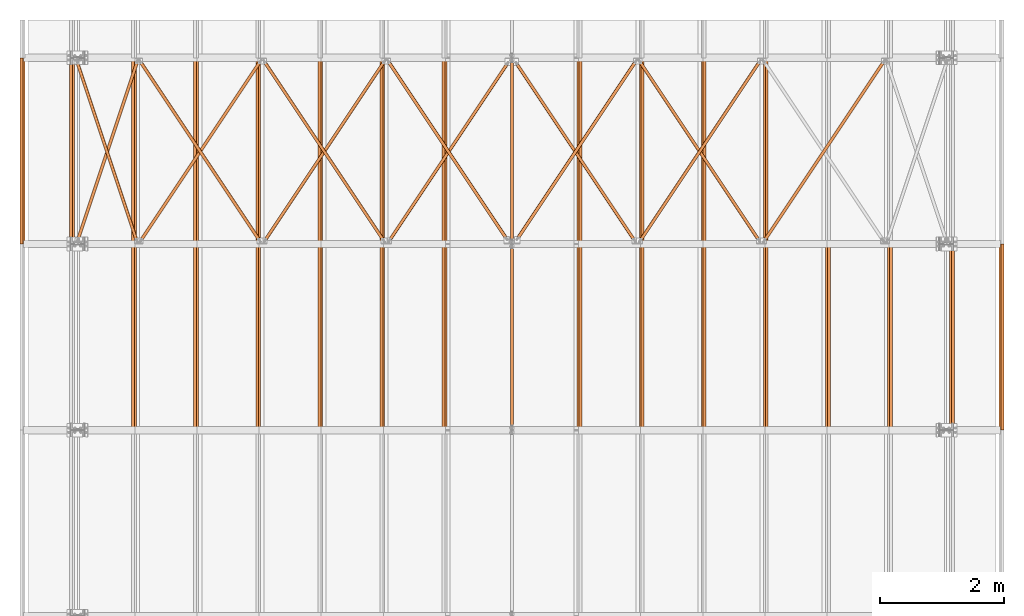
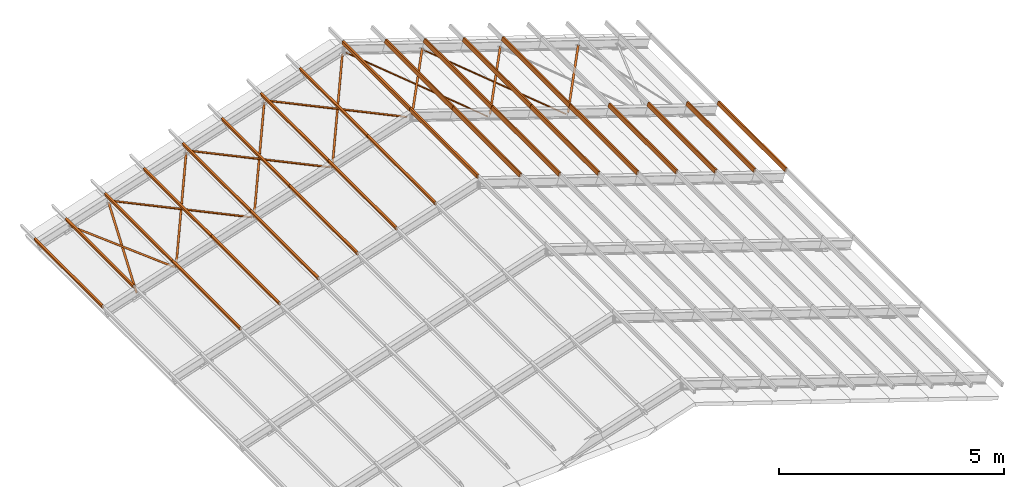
# One storey, part 52 of 53: 41 proxies.
"""IFC4 building model written with IfcOpenShell, lengths in metres."""

from ifc_helpers import new_model, si_unit, frame, frame_2d, origin_with_axes, origin_2d_with_axis, place, context, project, spatial, rectangle, hollow_rectangle, l_section, extrude, clip, halfspace, material, material_profile, profile_set, profile_usage, type_object, element, save


model = new_model("IFC4")

# Units and contexts
model_context = context("Model", 3, precision=1e-05, world=origin_with_axes())
ifc_project = project(units=[si_unit("LENGTHUNIT", "METRE"), si_unit("AREAUNIT", "SQUARE_METRE"), si_unit("VOLUMEUNIT", "CUBIC_METRE"), si_unit("MASSUNIT", "GRAM", prefix="KILO"), si_unit("TIMEUNIT", "SECOND"), si_unit("PLANEANGLEUNIT", "RADIAN"), si_unit("SOLIDANGLEUNIT", "STERADIAN"), si_unit("THERMODYNAMICTEMPERATUREUNIT", "DEGREE_CELSIUS")], contexts=[model_context])

# Site, building, storey
placement_1 = place(None, origin_with_axes())
site = spatial("IfcSite", under=ifc_project, at=placement_1, Name="Italia", CompositionType="ELEMENT")
building = spatial("IfcBuilding", under=site, at=placement_1, Name="Capannone", CompositionType="ELEMENT")
storey_placement = place(None, frame((0.0, 0.0, 5.550000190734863), z_axis=(0.0, 0.0, 1.0), x_axis=(1.0, 0.0, 0.0)))
storey = spatial("IfcBuildingStorey", under=building, at=storey_placement, Name="Storey 1", CompositionType="ELEMENT", Elevation=5.550000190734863)

# Proxies
ifc_material = material(Name="Acciaio", Category="Acciaio")
ifc_material_profile = material_profile(ifc_material, l_section(Depth=0.045, Width=0.045, Thickness=0.004, FilletRadius=0.0, EdgeRadius=0.0, at=origin_2d_with_axis()), Name="2 L45x4")
ifc_profile_set = profile_set([ifc_material_profile])
ifc_profile_usage_1 = profile_usage(ifc_profile_set, cardinal=5)
member_type_1 = type_object("IfcMemberType", Name="1 Piatto 50x5", PredefinedType="MEMBER", material=ifc_profile_usage_1)
placement_2 = place(placement_1, origin_with_axes())
proxy_1_placement = place(placement_2, frame((5.968785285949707, 10.5, 7.616432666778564), z_axis=(0.0, 0.0, 1.0), x_axis=(1.0, 0.0, 0.0)))
element("IfcBuildingElementProxy", 1, at=proxy_1_placement, inside=storey, type_object=member_type_1, Name="139", context=model_context, shape_type="Clipping", body=[
    clip(clip(extrude(rectangle(XDim=0.005, YDim=0.05, at=frame_2d((0.0, 0.0), x_axis=(-0.259726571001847, -0.965682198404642))), frame((0.0, 0.0, 0.0), z_axis=(-0.545710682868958, 0.818565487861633, -0.179305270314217), x_axis=(-0.832050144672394, -0.554700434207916, 0.0)), (0.0, 0.0, 1.0), 7.32989), halfspace(frame((-1.01655, 1.52483, -0.334011), z_axis=(0.545624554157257, -0.818567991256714, 0.179555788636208), x_axis=(0.832091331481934, 0.554638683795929, 0.0)), False)), halfspace(frame((-2.98345, 4.47517, -0.980278), z_axis=(0.545683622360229, -0.81856644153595, 0.179383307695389), x_axis=(0.832063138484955, 0.554680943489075, 0.0)), True)),
])
ifc_profile_usage_2 = profile_usage(ifc_profile_set, cardinal=5)
member_type_2 = type_object("IfcMemberType", Name="1 Piatto 50x5", PredefinedType="MEMBER", material=ifc_profile_usage_2)
proxy_2_placement = place(placement_2, frame((1.46878457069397, 10.5, 6.137860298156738), z_axis=(0.0, 0.0, 1.0), x_axis=(1.0, 0.0, 0.0)))
element("IfcBuildingElementProxy", 2, at=proxy_2_placement, inside=storey, type_object=member_type_2, Name="135", context=model_context, shape_type="Clipping", body=[
    clip(clip(extrude(rectangle(XDim=0.005, YDim=0.05, at=frame_2d((0.0, 0.0), x_axis=(-0.296134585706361, -0.955146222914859))), frame((0.0, 0.0, 0.0), z_axis=(-0.314534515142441, 0.943603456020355, -0.103346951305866), x_axis=(-0.948683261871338, -0.316227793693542, 0.0)), (0.0, 0.0, 1.0), 6.3586), halfspace(frame((-0.506309, 1.51892, -0.166358), z_axis=(0.314477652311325, -0.943603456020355, 0.103519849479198), x_axis=(0.948700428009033, 0.316176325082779, 0.0)), False)), halfspace(frame((-1.49356, 4.48067, -0.49074), z_axis=(0.314540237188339, -0.943602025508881, 0.103342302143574), x_axis=(0.94868141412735, 0.316233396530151, 0.0)), True)),
])
ifc_profile_usage_3 = profile_usage(ifc_profile_set, cardinal=5)
member_type_3 = type_object("IfcMemberType", Name="1 Piatto 50x5", PredefinedType="MEMBER", material=ifc_profile_usage_3)
proxy_3_placement = place(placement_2, frame((-0.518729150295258, 10.5, 5.4427170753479), z_axis=(0.0, 0.0, 1.0), x_axis=(1.0, 0.0, 0.0)))
element("IfcBuildingElementProxy", 3, at=proxy_3_placement, inside=storey, type_object=member_type_3, Name="132", context=model_context, shape_type="Clipping", body=[
    clip(clip(extrude(rectangle(XDim=0.005, YDim=0.05, at=frame_2d((0.0, 0.0), x_axis=(-0.296134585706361, -0.955146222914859))), frame((0.0, 0.0, 0.0), z_axis=(0.314534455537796, 0.943603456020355, 0.103346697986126), x_axis=(-0.948683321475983, 0.316227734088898, 0.0)), (0.0, 0.0, 1.0), 6.3586), halfspace(frame((0.506442, 1.51933, 0.166401), z_axis=(-0.314474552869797, -0.94359678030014, -0.103590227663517), x_axis=(0.948700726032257, -0.316175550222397, 0.0)), False)), halfspace(frame((1.49369, 4.48107, 0.490782), z_axis=(-0.3145532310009, -0.943597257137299, -0.103346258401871), x_axis=(0.948677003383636, -0.316246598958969, 0.0)), True)),
])
ifc_profile_usage_4 = profile_usage(ifc_profile_set, cardinal=8)
member_type_4 = type_object("IfcMemberType", Name="4 RHS100x50x3.2", PredefinedType="MEMBER", material=ifc_profile_usage_4)
proxy_4_placement = place(placement_2, origin_with_axes())
element("IfcBuildingElementProxy", 4, at=proxy_4_placement, inside=storey, type_object=member_type_4, Name="110", context=model_context, shape_type="SweptSolid", body=[
    extrude(hollow_rectangle(XDim=0.05, YDim=0.1, WallThickness=0.0032, at=frame_2d((0.0, 0.0), x_axis=(0.950032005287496, -0.312152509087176))), frame((1.90948, 12.0, 6.48265), z_axis=(0.0, 1.0, 0.0), x_axis=(-1.0, 0.0, 0.0)), (0.0, 0.0, 1.0), 3.0),
])
ifc_profile_usage_5 = profile_usage(ifc_profile_set, cardinal=8)
member_type_5 = type_object("IfcMemberType", Name="4 RHS100x50x3.2", PredefinedType="MEMBER", material=ifc_profile_usage_5)
proxy_5_placement = place(placement_2, origin_with_axes())
element("IfcBuildingElementProxy", 5, at=proxy_5_placement, inside=storey, type_object=member_type_5, Name="112", context=model_context, shape_type="SweptSolid", body=[
    extrude(hollow_rectangle(XDim=0.05, YDim=0.1, WallThickness=0.0032, at=frame_2d((0.0, 0.0), x_axis=(0.950032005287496, -0.312152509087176))), frame((3.90948, 12.0, 7.13979), z_axis=(0.0, 1.0, 0.0), x_axis=(-1.0, 0.0, 0.0)), (0.0, 0.0, 1.0), 3.0),
])
ifc_profile_usage_6 = profile_usage(ifc_profile_set, cardinal=8)
member_type_6 = type_object("IfcMemberType", Name="4 RHS100x50x3.2", PredefinedType="MEMBER", material=ifc_profile_usage_6)
proxy_6_placement = place(placement_2, origin_with_axes())
element("IfcBuildingElementProxy", 6, at=proxy_6_placement, inside=storey, type_object=member_type_6, Name="114", context=model_context, shape_type="SweptSolid", body=[
    extrude(hollow_rectangle(XDim=0.05, YDim=0.1, WallThickness=0.0032, at=frame_2d((0.0, 0.0), x_axis=(0.950032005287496, -0.312152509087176))), frame((5.90948, 12.0, 7.79694), z_axis=(0.0, 1.0, 0.0), x_axis=(-1.0, 0.0, 0.0)), (0.0, 0.0, 1.0), 3.0),
])
ifc_profile_usage_7 = profile_usage(ifc_profile_set, cardinal=5)
member_type_7 = type_object("IfcMemberType", Name="1 Piatto 50x5", PredefinedType="MEMBER", material=ifc_profile_usage_7)
proxy_7_placement = place(placement_2, frame((-0.018729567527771, 10.5, 5.607002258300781), z_axis=(0.0, 0.0, 1.0), x_axis=(1.0, 0.0, 0.0)))
element("IfcBuildingElementProxy", 7, at=proxy_7_placement, inside=storey, type_object=member_type_7, Name="137", context=model_context, shape_type="Clipping", body=[
    clip(clip(extrude(rectangle(XDim=0.005, YDim=0.05, at=frame_2d((0.0, 0.0), x_axis=(-0.259727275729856, -0.965682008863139))), frame((0.0, 0.0, 0.0), z_axis=(0.545710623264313, 0.818565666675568, 0.179304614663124), x_axis=(-0.832050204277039, 0.554700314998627, 0.0)), (0.0, 0.0, 1.0), 7.32989), halfspace(frame((1.01655, 1.52483, 0.33401), z_axis=(-0.545713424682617, -0.818564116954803, -0.179303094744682), x_axis=(0.832048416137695, -0.554703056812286, 0.0)), False)), halfspace(frame((2.98345, 4.47517, 0.980274), z_axis=(-0.545700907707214, -0.818565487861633, -0.17933514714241), x_axis=(0.832054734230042, -0.554693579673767, 0.0)), True)),
])
ifc_profile_usage_8 = profile_usage(ifc_profile_set, cardinal=5)
member_type_8 = type_object("IfcMemberType", Name="1 Piatto 50x5", PredefinedType="MEMBER", material=ifc_profile_usage_8)
proxy_8_placement = place(placement_2, frame((3.968784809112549, 10.5, 6.95928955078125), z_axis=(0.0, 0.0, 1.0), x_axis=(1.0, 0.0, 0.0)))
element("IfcBuildingElementProxy", 8, at=proxy_8_placement, inside=storey, type_object=member_type_8, Name="126", context=model_context, shape_type="Clipping", body=[
    clip(clip(extrude(rectangle(XDim=0.005, YDim=0.05, at=frame_2d((0.0, 0.0), x_axis=(-0.259727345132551, -0.965681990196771))), frame((0.0, 0.0, 0.0), z_axis=(-0.545710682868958, 0.818565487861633, -0.179305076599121), x_axis=(-0.832050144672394, -0.554700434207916, 0.0)), (0.0, 0.0, 1.0), 7.32989), halfspace(frame((-1.01655, 1.52483, -0.33401), z_axis=(0.545691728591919, -0.818568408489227, 0.179349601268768), x_axis=(0.832059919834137, 0.554685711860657, 0.0)), False)), halfspace(frame((-2.98345, 4.47517, -0.980278), z_axis=(0.545613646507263, -0.818566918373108, 0.179593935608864), x_axis=(0.832096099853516, 0.554631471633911, 0.0)), True)),
])
ifc_profile_usage_9 = profile_usage(ifc_profile_set, cardinal=5)
member_type_9 = type_object("IfcMemberType", Name="1 Piatto 50x5", PredefinedType="MEMBER", material=ifc_profile_usage_9)
proxy_9_placement = place(placement_2, frame((6.031215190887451, 10.5, 8.273573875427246), z_axis=(0.0, 0.0, 1.0), x_axis=(1.0, 0.0, 0.0)))
element("IfcBuildingElementProxy", 9, at=proxy_9_placement, inside=storey, type_object=member_type_9, Name="129", context=model_context, shape_type="Clipping", body=[
    clip(clip(extrude(rectangle(XDim=0.005, YDim=0.05, at=frame_2d((0.0, 0.0), x_axis=(-0.259727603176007, 0.96568192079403))), frame((0.0, 0.0, 0.0), z_axis=(0.545710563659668, 0.818565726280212, -0.179304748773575), x_axis=(-0.832050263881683, 0.554700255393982, 0.0)), (0.0, 0.0, 1.0), 7.32989), halfspace(frame((1.03347, 1.5502, -0.339568), z_axis=(-0.54570996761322, -0.81856095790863, 0.179328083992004), x_axis=(0.832049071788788, -0.55470210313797, 0.0)), False)), halfspace(frame((2.98345, 4.47517, -0.980275), z_axis=(-0.545789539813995, -0.818569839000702, 0.179045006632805), x_axis=(0.832014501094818, -0.55475389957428, 0.0)), True)),
])
ifc_profile_usage_10 = profile_usage(ifc_profile_set, cardinal=5)
member_type_10 = type_object("IfcMemberType", Name="1 Piatto 50x5", PredefinedType="MEMBER", material=ifc_profile_usage_10)
proxy_10_placement = place(placement_2, frame((10.01248550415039, 10.5, 6.902287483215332), z_axis=(0.0, 0.0, 1.0), x_axis=(1.0, 0.0, 0.0)))
element("IfcBuildingElementProxy", 10, at=proxy_10_placement, inside=storey, type_object=member_type_10, Name="131", context=model_context, shape_type="Clipping", body=[
    clip(clip(extrude(rectangle(XDim=0.005, YDim=0.05, at=frame_2d((0.0, 0.0), x_axis=(-0.259727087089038, 0.965682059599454))), frame((0.0, 0.0, 0.0), z_axis=(-0.545710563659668, 0.818565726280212, 0.179304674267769), x_axis=(-0.832050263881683, -0.554700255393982, 0.0)), (0.0, 0.0, 1.0), 7.32989), halfspace(frame((-1.01655, 1.52483, 0.334009), z_axis=(0.545754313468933, -0.818560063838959, -0.179197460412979), x_axis=(0.832027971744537, 0.554733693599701, 0.0)), False)), halfspace(frame((-2.96653, 4.4498, 0.974717), z_axis=(0.545635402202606, -0.818559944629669, -0.179559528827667), x_axis=(0.832083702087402, 0.554650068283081, 0.0)), True)),
])
ifc_profile_usage_11 = profile_usage(ifc_profile_set, cardinal=5)
member_type_11 = type_object("IfcMemberType", Name="1 Piatto 50x5", PredefinedType="MEMBER", material=ifc_profile_usage_11)
proxy_11_placement = place(placement_2, frame((8.03121566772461, 10.5, 7.61643123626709), z_axis=(0.0, 0.0, 1.0), x_axis=(1.0, 0.0, 0.0)))
element("IfcBuildingElementProxy", 11, at=proxy_11_placement, inside=storey, type_object=member_type_11, Name="127", context=model_context, shape_type="Clipping", body=[
    clip(clip(extrude(rectangle(XDim=0.005, YDim=0.05, at=frame_2d((0.0, 0.0), x_axis=(-0.259727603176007, 0.96568192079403))), frame((0.0, 0.0, 0.0), z_axis=(0.545710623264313, 0.818565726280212, -0.179304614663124), x_axis=(-0.832050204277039, 0.554700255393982, 0.0)), (0.0, 0.0, 1.0), 7.32989), halfspace(frame((1.01655, 1.52483, -0.334009), z_axis=(-0.545621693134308, -0.818545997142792, 0.179664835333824), x_axis=(0.832085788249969, -0.554646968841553, 0.0)), False)), halfspace(frame((2.98345, 4.47517, -0.980275), z_axis=(-0.545684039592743, -0.818583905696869, 0.179302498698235), x_axis=(0.832068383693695, -0.554673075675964, 0.0)), True)),
])
ifc_profile_usage_12 = profile_usage(ifc_profile_set, cardinal=5)
member_type_12 = type_object("IfcMemberType", Name="1 Piatto 50x5", PredefinedType="MEMBER", material=ifc_profile_usage_12)
proxy_12_placement = place(placement_2, frame((12.018729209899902, 10.5, 6.264145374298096), z_axis=(0.0, 0.0, 1.0), x_axis=(1.0, 0.0, 0.0)))
element("IfcBuildingElementProxy", 12, at=proxy_12_placement, inside=storey, type_object=member_type_12, Name="124", context=model_context, shape_type="Clipping", body=[
    clip(clip(extrude(rectangle(XDim=0.005, YDim=0.05, at=frame_2d((0.0, 0.0), x_axis=(-0.259726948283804, 0.965682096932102))), frame((0.0, 0.0, 0.0), z_axis=(-0.545710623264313, 0.818565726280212, 0.179304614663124), x_axis=(-0.832050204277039, -0.554700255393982, 0.0)), (0.0, 0.0, 1.0), 7.32989), halfspace(frame((-1.01655, 1.52483, 0.334009), z_axis=(0.545703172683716, -0.818569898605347, -0.179307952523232), x_axis=(0.832055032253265, 0.554693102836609, 0.0)), False)), halfspace(frame((-2.98345, 4.47517, 0.980275), z_axis=(0.545735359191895, -0.818553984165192, -0.179282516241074), x_axis=(0.832034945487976, 0.55472320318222, 0.0)), True)),
])
ifc_profile_usage_13 = profile_usage(ifc_profile_set, cardinal=5)
member_type_13 = type_object("IfcMemberType", Name="1 Piatto 50x5", PredefinedType="MEMBER", material=ifc_profile_usage_13)
proxy_13_placement = place(placement_2, frame((10.031214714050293, 10.5, 6.95928955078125), z_axis=(0.0, 0.0, 1.0), x_axis=(1.0, 0.0, 0.0)))
element("IfcBuildingElementProxy", 13, at=proxy_13_placement, inside=storey, type_object=member_type_13, Name="130", context=model_context, shape_type="Clipping", body=[
    clip(clip(extrude(rectangle(XDim=0.005, YDim=0.05, at=frame_2d((0.0, 0.0), x_axis=(-0.259727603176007, 0.96568192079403))), frame((0.0, 0.0, 0.0), z_axis=(0.545710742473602, 0.818565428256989, -0.179305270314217), x_axis=(-0.832050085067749, 0.554700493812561, 0.0)), (0.0, 0.0, 1.0), 7.32989), halfspace(frame((1.01655, 1.52483, -0.33401), z_axis=(-0.545715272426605, -0.818576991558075, 0.17923891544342), x_axis=(0.832051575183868, -0.554698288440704, 0.0)), False)), halfspace(frame((2.98345, 4.47517, -0.980276), z_axis=(-0.545605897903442, -0.818565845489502, 0.179622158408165), x_axis=(0.832099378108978, -0.554626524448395, 0.0)), True)),
])
ifc_profile_usage_14 = profile_usage(ifc_profile_set, cardinal=8)
member_type_14 = type_object("IfcMemberType", Name="4 RHS100x50x3.2", PredefinedType="MEMBER", material=ifc_profile_usage_14)
proxy_14_placement = place(placement_2, origin_with_axes())
element("IfcBuildingElementProxy", 14, at=proxy_14_placement, inside=storey, type_object=member_type_14, Name="107", context=model_context, shape_type="SweptSolid", body=[
    extrude(hollow_rectangle(XDim=0.05, YDim=0.1, WallThickness=0.0032, at=frame_2d((0.0, 0.0), x_axis=(0.950032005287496, -0.312152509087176))), frame((-0.890524, 12.0, 5.56265), z_axis=(0.0, 1.0, 0.0), x_axis=(-1.0, 0.0, 0.0)), (0.0, 0.0, 1.0), 3.0),
])
ifc_profile_usage_15 = profile_usage(ifc_profile_set, cardinal=8)
member_type_15 = type_object("IfcMemberType", Name="4 RHS100x50x3.2", PredefinedType="MEMBER", material=ifc_profile_usage_15)
proxy_15_placement = place(placement_2, origin_with_axes())
element("IfcBuildingElementProxy", 15, at=proxy_15_placement, inside=storey, type_object=member_type_15, Name="123", context=model_context, shape_type="SweptSolid", body=[
    extrude(hollow_rectangle(XDim=0.05, YDim=0.1, WallThickness=0.0032, at=frame_2d((0.0, 0.0), x_axis=(0.950032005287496, 0.312152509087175))), frame((14.8905, 9.0, 5.56265), z_axis=(0.0, 1.0, 0.0), x_axis=(-1.0, 0.0, 0.0)), (0.0, 0.0, 1.0), 3.0),
])
ifc_profile_usage_16 = profile_usage(ifc_profile_set, cardinal=8)
member_type_16 = type_object("IfcMemberType", Name="4 RHS100x50x3.2", PredefinedType="MEMBER", material=ifc_profile_usage_16)
proxy_16_placement = place(placement_2, origin_with_axes())
element("IfcBuildingElementProxy", 16, at=proxy_16_placement, inside=storey, type_object=member_type_16, Name="122", context=model_context, shape_type="SweptSolid", body=[
    extrude(hollow_rectangle(XDim=0.05, YDim=0.1, WallThickness=0.0032, at=frame_2d((0.0, 0.0), x_axis=(0.950032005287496, 0.312152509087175))), frame((14.0905, 9.0, 5.82551), z_axis=(0.0, 1.0, 0.0), x_axis=(-1.0, 0.0, 0.0)), (0.0, 0.0, 1.0), 3.0),
])
ifc_profile_usage_17 = profile_usage(ifc_profile_set, cardinal=8)
member_type_17 = type_object("IfcMemberType", Name="4 RHS100x50x3.2", PredefinedType="MEMBER", material=ifc_profile_usage_17)
proxy_17_placement = place(placement_2, origin_with_axes())
element("IfcBuildingElementProxy", 17, at=proxy_17_placement, inside=storey, type_object=member_type_17, Name="115", context=model_context, shape_type="SweptSolid", body=[
    extrude(hollow_rectangle(XDim=0.05, YDim=0.1, WallThickness=0.0032, at=origin_2d_with_axis()), frame((7.0, 12.0, 8.14), z_axis=(0.0, -1.0, 0.0), x_axis=(1.0, 0.0, 0.0)), (0.0, 0.0, 1.0), 3.0),
])
ifc_profile_usage_18 = profile_usage(ifc_profile_set, cardinal=8)
member_type_18 = type_object("IfcMemberType", Name="4 RHS100x50x3.2", PredefinedType="MEMBER", material=ifc_profile_usage_18)
proxy_18_placement = place(placement_2, origin_with_axes())
element("IfcBuildingElementProxy", 18, at=proxy_18_placement, inside=storey, type_object=member_type_18, Name="108", context=model_context, shape_type="SweptSolid", body=[
    extrude(hollow_rectangle(XDim=0.05, YDim=0.1, WallThickness=0.0032, at=frame_2d((0.0, 0.0), x_axis=(0.950031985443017, -0.312152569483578))), frame((-0.0905242, 12.0, 5.82551), z_axis=(0.0, 1.0, 0.0), x_axis=(-1.0, 0.0, 0.0)), (0.0, 0.0, 1.0), 3.0),
])
ifc_profile_usage_19 = profile_usage(ifc_profile_set, cardinal=8)
member_type_19 = type_object("IfcMemberType", Name="4 RHS100x50x3.2", PredefinedType="MEMBER", material=ifc_profile_usage_19)
proxy_19_placement = place(placement_2, origin_with_axes())
element("IfcBuildingElementProxy", 19, at=proxy_19_placement, inside=storey, type_object=member_type_19, Name="109", context=model_context, shape_type="SweptSolid", body=[
    extrude(hollow_rectangle(XDim=0.05, YDim=0.1, WallThickness=0.0032, at=frame_2d((0.0, 0.0), x_axis=(0.950031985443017, -0.312152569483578))), frame((0.909476, 9.0, 6.15408), z_axis=(0.0, 1.0, 0.0), x_axis=(-1.0, 0.0, 0.0)), (0.0, 0.0, 1.0), 3.0),
])
ifc_profile_usage_20 = profile_usage(ifc_profile_set, cardinal=8)
member_type_20 = type_object("IfcMemberType", Name="4 RHS100x50x3.2", PredefinedType="MEMBER", material=ifc_profile_usage_20)
proxy_20_placement = place(placement_2, origin_with_axes())
element("IfcBuildingElementProxy", 20, at=proxy_20_placement, inside=storey, type_object=member_type_20, Name="110", context=model_context, shape_type="SweptSolid", body=[
    extrude(hollow_rectangle(XDim=0.05, YDim=0.1, WallThickness=0.0032, at=frame_2d((0.0, 0.0), x_axis=(0.950031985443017, -0.312152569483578))), frame((1.90948, 9.0, 6.48265), z_axis=(0.0, 1.0, 0.0), x_axis=(-1.0, 0.0, 0.0)), (0.0, 0.0, 1.0), 3.0),
])
ifc_profile_usage_21 = profile_usage(ifc_profile_set, cardinal=8)
member_type_21 = type_object("IfcMemberType", Name="4 RHS100x50x3.2", PredefinedType="MEMBER", material=ifc_profile_usage_21)
proxy_21_placement = place(placement_2, origin_with_axes())
element("IfcBuildingElementProxy", 21, at=proxy_21_placement, inside=storey, type_object=member_type_21, Name="111", context=model_context, shape_type="SweptSolid", body=[
    extrude(hollow_rectangle(XDim=0.05, YDim=0.1, WallThickness=0.0032, at=frame_2d((0.0, 0.0), x_axis=(0.950031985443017, -0.312152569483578))), frame((2.90948, 9.0, 6.81122), z_axis=(0.0, 1.0, 0.0), x_axis=(-1.0, 0.0, 0.0)), (0.0, 0.0, 1.0), 3.0),
])
ifc_profile_usage_22 = profile_usage(ifc_profile_set, cardinal=8)
member_type_22 = type_object("IfcMemberType", Name="4 RHS100x50x3.2", PredefinedType="MEMBER", material=ifc_profile_usage_22)
proxy_22_placement = place(placement_2, origin_with_axes())
element("IfcBuildingElementProxy", 22, at=proxy_22_placement, inside=storey, type_object=member_type_22, Name="112", context=model_context, shape_type="SweptSolid", body=[
    extrude(hollow_rectangle(XDim=0.05, YDim=0.1, WallThickness=0.0032, at=frame_2d((0.0, 0.0), x_axis=(0.950031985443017, -0.312152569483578))), frame((3.90948, 9.0, 7.13979), z_axis=(0.0, 1.0, 0.0), x_axis=(-1.0, 0.0, 0.0)), (0.0, 0.0, 1.0), 3.0),
])
ifc_profile_usage_23 = profile_usage(ifc_profile_set, cardinal=8)
member_type_23 = type_object("IfcMemberType", Name="4 RHS100x50x3.2", PredefinedType="MEMBER", material=ifc_profile_usage_23)
proxy_23_placement = place(placement_2, origin_with_axes())
element("IfcBuildingElementProxy", 23, at=proxy_23_placement, inside=storey, type_object=member_type_23, Name="113", context=model_context, shape_type="SweptSolid", body=[
    extrude(hollow_rectangle(XDim=0.05, YDim=0.1, WallThickness=0.0032, at=frame_2d((0.0, 0.0), x_axis=(0.950031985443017, -0.312152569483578))), frame((4.90948, 9.0, 7.46837), z_axis=(0.0, 1.0, 0.0), x_axis=(-1.0, 0.0, 0.0)), (0.0, 0.0, 1.0), 3.0),
])
ifc_profile_usage_24 = profile_usage(ifc_profile_set, cardinal=8)
member_type_24 = type_object("IfcMemberType", Name="4 RHS100x50x3.2", PredefinedType="MEMBER", material=ifc_profile_usage_24)
proxy_24_placement = place(placement_2, origin_with_axes())
element("IfcBuildingElementProxy", 24, at=proxy_24_placement, inside=storey, type_object=member_type_24, Name="114", context=model_context, shape_type="SweptSolid", body=[
    extrude(hollow_rectangle(XDim=0.05, YDim=0.1, WallThickness=0.0032, at=frame_2d((0.0, 0.0), x_axis=(0.950031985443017, -0.312152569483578))), frame((5.90948, 9.0, 7.79694), z_axis=(0.0, 1.0, 0.0), x_axis=(-1.0, 0.0, 0.0)), (0.0, 0.0, 1.0), 3.0),
])
ifc_profile_usage_25 = profile_usage(ifc_profile_set, cardinal=8)
member_type_25 = type_object("IfcMemberType", Name="4 RHS100x50x3.2", PredefinedType="MEMBER", material=ifc_profile_usage_25)
proxy_25_placement = place(placement_2, origin_with_axes())
element("IfcBuildingElementProxy", 25, at=proxy_25_placement, inside=storey, type_object=member_type_25, Name="109", context=model_context, shape_type="SweptSolid", body=[
    extrude(hollow_rectangle(XDim=0.05, YDim=0.1, WallThickness=0.0032, at=frame_2d((0.0, 0.0), x_axis=(0.950031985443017, -0.312152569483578))), frame((0.909476, 12.0, 6.15408), z_axis=(0.0, 1.0, 0.0), x_axis=(-1.0, 0.0, 0.0)), (0.0, 0.0, 1.0), 3.0),
])
ifc_profile_usage_26 = profile_usage(ifc_profile_set, cardinal=5)
member_type_26 = type_object("IfcMemberType", Name="1 Piatto 50x5", PredefinedType="MEMBER", material=ifc_profile_usage_26)
proxy_26_placement = place(placement_2, frame((3.987513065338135, 10.5, 6.90228796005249), z_axis=(0.0, 0.0, 1.0), x_axis=(1.0, 0.0, 0.0)))
element("IfcBuildingElementProxy", 26, at=proxy_26_placement, inside=storey, type_object=member_type_26, Name="136", context=model_context, shape_type="Clipping", body=[
    clip(clip(extrude(rectangle(XDim=0.005, YDim=0.05, at=frame_2d((0.0, 0.0), x_axis=(-0.259727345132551, -0.965681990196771))), frame((0.0, 0.0, 0.0), z_axis=(0.545710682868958, 0.818565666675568, 0.179304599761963), x_axis=(-0.832050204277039, 0.554700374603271, 0.0)), (0.0, 0.0, 1.0), 7.32989), halfspace(frame((1.01655, 1.52483, 0.334009), z_axis=(-0.545708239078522, -0.818558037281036, -0.179346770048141), x_axis=(0.832048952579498, -0.55470222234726, 0.0)), False)), halfspace(frame((2.96653, 4.4498, 0.974715), z_axis=(-0.545581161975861, -0.818583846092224, -0.179615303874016), x_axis=(0.832116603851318, -0.554600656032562, 0.0)), True)),
])
ifc_profile_usage_27 = profile_usage(ifc_profile_set, cardinal=8)
member_type_27 = type_object("IfcMemberType", Name="4 RHS100x50x3.2", PredefinedType="MEMBER", material=ifc_profile_usage_27)
proxy_27_placement = place(placement_2, origin_with_axes())
element("IfcBuildingElementProxy", 27, at=proxy_27_placement, inside=storey, type_object=member_type_27, Name="111", context=model_context, shape_type="SweptSolid", body=[
    extrude(hollow_rectangle(XDim=0.05, YDim=0.1, WallThickness=0.0032, at=frame_2d((0.0, 0.0), x_axis=(0.950031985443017, -0.312152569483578))), frame((2.90948, 12.0, 6.81122), z_axis=(0.0, 1.0, 0.0), x_axis=(-1.0, 0.0, 0.0)), (0.0, 0.0, 1.0), 3.0),
])
ifc_profile_usage_28 = profile_usage(ifc_profile_set, cardinal=5)
member_type_28 = type_object("IfcMemberType", Name="1 Piatto 50x5", PredefinedType="MEMBER", material=ifc_profile_usage_28)
proxy_28_placement = place(placement_2, frame((7.968784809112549, 10.5, 8.273574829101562), z_axis=(0.0, 0.0, 1.0), x_axis=(1.0, 0.0, 0.0)))
element("IfcBuildingElementProxy", 28, at=proxy_28_placement, inside=storey, type_object=member_type_28, Name="128", context=model_context, shape_type="Clipping", body=[
    clip(clip(extrude(rectangle(XDim=0.005, YDim=0.05, at=frame_2d((0.0, 0.0), x_axis=(-0.259726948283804, -0.965682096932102))), frame((0.0, 0.0, 0.0), z_axis=(-0.545710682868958, 0.818565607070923, -0.179304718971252), x_axis=(-0.832050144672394, -0.554700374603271, 0.0)), (0.0, 0.0, 1.0), 7.3299), halfspace(frame((-1.03347, 1.5502, -0.339569), z_axis=(0.545769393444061, -0.81856095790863, 0.179147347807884), x_axis=(0.832021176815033, 0.554743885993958, 0.0)), False)), halfspace(frame((-2.98345, 4.47517, -0.980277), z_axis=(0.545695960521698, -0.818559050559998, 0.179379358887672), x_axis=(0.832055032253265, 0.554693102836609, 0.0)), True)),
])
ifc_profile_usage_29 = profile_usage(ifc_profile_set, cardinal=8)
member_type_29 = type_object("IfcMemberType", Name="4 RHS100x50x3.2", PredefinedType="MEMBER", material=ifc_profile_usage_29)
proxy_29_placement = place(placement_2, origin_with_axes())
element("IfcBuildingElementProxy", 29, at=proxy_29_placement, inside=storey, type_object=member_type_29, Name="113", context=model_context, shape_type="SweptSolid", body=[
    extrude(hollow_rectangle(XDim=0.05, YDim=0.1, WallThickness=0.0032, at=frame_2d((0.0, 0.0), x_axis=(0.950031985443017, -0.312152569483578))), frame((4.90948, 12.0, 7.46837), z_axis=(0.0, 1.0, 0.0), x_axis=(-1.0, 0.0, 0.0)), (0.0, 0.0, 1.0), 3.0),
])
ifc_profile_usage_30 = profile_usage(ifc_profile_set, cardinal=5)
member_type_30 = type_object("IfcMemberType", Name="1 Piatto 50x5", PredefinedType="MEMBER", material=ifc_profile_usage_30)
proxy_30_placement = place(placement_2, frame((1.981270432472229, 10.5, 6.264143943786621), z_axis=(0.0, 0.0, 1.0), x_axis=(1.0, 0.0, 0.0)))
element("IfcBuildingElementProxy", 30, at=proxy_30_placement, inside=storey, type_object=member_type_30, Name="125", context=model_context, shape_type="Clipping", body=[
    clip(clip(extrude(rectangle(XDim=0.005, YDim=0.05, at=frame_2d((0.0, 0.0), x_axis=(-0.259727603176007, -0.96568192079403))), frame((0.0, 0.0, 0.0), z_axis=(0.545710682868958, 0.818565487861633, 0.179305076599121), x_axis=(-0.832050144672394, 0.554700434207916, 0.0)), (0.0, 0.0, 1.0), 7.32989), halfspace(frame((1.01655, 1.52483, 0.334011), z_axis=(-0.545706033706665, -0.818567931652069, -0.17930856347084), x_axis=(0.832053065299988, -0.554696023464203, 0.0)), False)), halfspace(frame((2.98345, 4.47517, 0.980278), z_axis=(-0.545885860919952, -0.818534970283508, -0.178911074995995), x_axis=(0.831958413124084, -0.554838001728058, 0.0)), True)),
])
ifc_profile_usage_31 = profile_usage(ifc_profile_set, cardinal=8)
member_type_31 = type_object("IfcMemberType", Name="4 RHS100x50x3.2", PredefinedType="MEMBER", material=ifc_profile_usage_31)
proxy_31_placement = place(placement_2, origin_with_axes())
element("IfcBuildingElementProxy", 31, at=proxy_31_placement, inside=storey, type_object=member_type_31, Name="116", context=model_context, shape_type="SweptSolid", body=[
    extrude(hollow_rectangle(XDim=0.05, YDim=0.1, WallThickness=0.0032, at=frame_2d((0.0, 0.0), x_axis=(0.950032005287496, 0.312152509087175))), frame((8.09052, 12.0, 7.79694), z_axis=(0.0, 1.0, 0.0), x_axis=(-1.0, 0.0, 0.0)), (0.0, 0.0, 1.0), 3.0),
])
ifc_profile_usage_32 = profile_usage(ifc_profile_set, cardinal=8)
member_type_32 = type_object("IfcMemberType", Name="4 RHS100x50x3.2", PredefinedType="MEMBER", material=ifc_profile_usage_32)
proxy_32_placement = place(placement_2, origin_with_axes())
element("IfcBuildingElementProxy", 32, at=proxy_32_placement, inside=storey, type_object=member_type_32, Name="117", context=model_context, shape_type="SweptSolid", body=[
    extrude(hollow_rectangle(XDim=0.05, YDim=0.1, WallThickness=0.0032, at=frame_2d((0.0, 0.0), x_axis=(0.950032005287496, 0.312152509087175))), frame((9.09052, 12.0, 7.46837), z_axis=(0.0, 1.0, 0.0), x_axis=(-1.0, 0.0, 0.0)), (0.0, 0.0, 1.0), 3.0),
])
ifc_profile_usage_33 = profile_usage(ifc_profile_set, cardinal=8)
member_type_33 = type_object("IfcMemberType", Name="4 RHS100x50x3.2", PredefinedType="MEMBER", material=ifc_profile_usage_33)
proxy_33_placement = place(placement_2, origin_with_axes())
element("IfcBuildingElementProxy", 33, at=proxy_33_placement, inside=storey, type_object=member_type_33, Name="118", context=model_context, shape_type="SweptSolid", body=[
    extrude(hollow_rectangle(XDim=0.05, YDim=0.1, WallThickness=0.0032, at=frame_2d((0.0, 0.0), x_axis=(0.950032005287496, 0.312152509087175))), frame((10.0905, 12.0, 7.1398), z_axis=(0.0, 1.0, 0.0), x_axis=(-1.0, 0.0, 0.0)), (0.0, 0.0, 1.0), 3.0),
])
ifc_profile_usage_34 = profile_usage(ifc_profile_set, cardinal=8)
member_type_34 = type_object("IfcMemberType", Name="4 RHS100x50x3.2", PredefinedType="MEMBER", material=ifc_profile_usage_34)
proxy_34_placement = place(placement_2, origin_with_axes())
element("IfcBuildingElementProxy", 34, at=proxy_34_placement, inside=storey, type_object=member_type_34, Name="119", context=model_context, shape_type="SweptSolid", body=[
    extrude(hollow_rectangle(XDim=0.05, YDim=0.1, WallThickness=0.0032, at=frame_2d((0.0, 0.0), x_axis=(0.950032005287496, 0.312152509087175))), frame((11.0905, 12.0, 6.81122), z_axis=(0.0, 1.0, 0.0), x_axis=(-1.0, 0.0, 0.0)), (0.0, 0.0, 1.0), 3.0),
])
ifc_profile_usage_35 = profile_usage(ifc_profile_set, cardinal=8)
member_type_35 = type_object("IfcMemberType", Name="4 RHS100x50x3.2", PredefinedType="MEMBER", material=ifc_profile_usage_35)
proxy_35_placement = place(placement_2, origin_with_axes())
element("IfcBuildingElementProxy", 35, at=proxy_35_placement, inside=storey, type_object=member_type_35, Name="116", context=model_context, shape_type="SweptSolid", body=[
    extrude(hollow_rectangle(XDim=0.05, YDim=0.1, WallThickness=0.0032, at=frame_2d((0.0, 0.0), x_axis=(0.950032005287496, 0.312152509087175))), frame((8.09052, 9.0, 7.79694), z_axis=(0.0, 1.0, 0.0), x_axis=(-1.0, 0.0, 0.0)), (0.0, 0.0, 1.0), 3.0),
])
ifc_profile_usage_36 = profile_usage(ifc_profile_set, cardinal=8)
member_type_36 = type_object("IfcMemberType", Name="4 RHS100x50x3.2", PredefinedType="MEMBER", material=ifc_profile_usage_36)
proxy_36_placement = place(placement_2, origin_with_axes())
element("IfcBuildingElementProxy", 36, at=proxy_36_placement, inside=storey, type_object=member_type_36, Name="117", context=model_context, shape_type="SweptSolid", body=[
    extrude(hollow_rectangle(XDim=0.05, YDim=0.1, WallThickness=0.0032, at=frame_2d((0.0, 0.0), x_axis=(0.950032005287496, 0.312152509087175))), frame((9.09052, 9.0, 7.46837), z_axis=(0.0, 1.0, 0.0), x_axis=(-1.0, 0.0, 0.0)), (0.0, 0.0, 1.0), 3.0),
])
ifc_profile_usage_37 = profile_usage(ifc_profile_set, cardinal=8)
member_type_37 = type_object("IfcMemberType", Name="4 RHS100x50x3.2", PredefinedType="MEMBER", material=ifc_profile_usage_37)
proxy_37_placement = place(placement_2, origin_with_axes())
element("IfcBuildingElementProxy", 37, at=proxy_37_placement, inside=storey, type_object=member_type_37, Name="118", context=model_context, shape_type="SweptSolid", body=[
    extrude(hollow_rectangle(XDim=0.05, YDim=0.1, WallThickness=0.0032, at=frame_2d((0.0, 0.0), x_axis=(0.950032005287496, 0.312152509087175))), frame((10.0905, 9.0, 7.1398), z_axis=(0.0, 1.0, 0.0), x_axis=(-1.0, 0.0, 0.0)), (0.0, 0.0, 1.0), 3.0),
])
ifc_profile_usage_38 = profile_usage(ifc_profile_set, cardinal=8)
member_type_38 = type_object("IfcMemberType", Name="4 RHS100x50x3.2", PredefinedType="MEMBER", material=ifc_profile_usage_38)
proxy_38_placement = place(placement_2, origin_with_axes())
element("IfcBuildingElementProxy", 38, at=proxy_38_placement, inside=storey, type_object=member_type_38, Name="119", context=model_context, shape_type="SweptSolid", body=[
    extrude(hollow_rectangle(XDim=0.05, YDim=0.1, WallThickness=0.0032, at=frame_2d((0.0, 0.0), x_axis=(0.950032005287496, 0.312152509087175))), frame((11.0905, 9.0, 6.81122), z_axis=(0.0, 1.0, 0.0), x_axis=(-1.0, 0.0, 0.0)), (0.0, 0.0, 1.0), 3.0),
])
ifc_profile_usage_39 = profile_usage(ifc_profile_set, cardinal=8)
member_type_39 = type_object("IfcMemberType", Name="4 RHS100x50x3.2", PredefinedType="MEMBER", material=ifc_profile_usage_39)
proxy_39_placement = place(placement_2, origin_with_axes())
element("IfcBuildingElementProxy", 39, at=proxy_39_placement, inside=storey, type_object=member_type_39, Name="120", context=model_context, shape_type="SweptSolid", body=[
    extrude(hollow_rectangle(XDim=0.05, YDim=0.1, WallThickness=0.0032, at=frame_2d((0.0, 0.0), x_axis=(0.950032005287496, 0.312152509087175))), frame((12.0905, 9.0, 6.48265), z_axis=(0.0, 1.0, 0.0), x_axis=(-1.0, 0.0, 0.0)), (0.0, 0.0, 1.0), 3.0),
])
ifc_profile_usage_40 = profile_usage(ifc_profile_set, cardinal=8)
member_type_40 = type_object("IfcMemberType", Name="4 RHS100x50x3.2", PredefinedType="MEMBER", material=ifc_profile_usage_40)
proxy_40_placement = place(placement_2, origin_with_axes())
element("IfcBuildingElementProxy", 40, at=proxy_40_placement, inside=storey, type_object=member_type_40, Name="121", context=model_context, shape_type="SweptSolid", body=[
    extrude(hollow_rectangle(XDim=0.05, YDim=0.1, WallThickness=0.0032, at=frame_2d((0.0, 0.0), x_axis=(0.950032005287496, 0.312152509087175))), frame((13.0905, 9.0, 6.15408), z_axis=(0.0, 1.0, 0.0), x_axis=(-1.0, 0.0, 0.0)), (0.0, 0.0, 1.0), 3.0),
])
ifc_profile_usage_41 = profile_usage(ifc_profile_set, cardinal=8)
member_type_41 = type_object("IfcMemberType", Name="4 RHS100x50x3.2", PredefinedType="MEMBER", material=ifc_profile_usage_41)
proxy_41_placement = place(placement_2, origin_with_axes())
element("IfcBuildingElementProxy", 41, at=proxy_41_placement, inside=storey, type_object=member_type_41, Name="115", context=model_context, shape_type="SweptSolid", body=[
    extrude(hollow_rectangle(XDim=0.05, YDim=0.1, WallThickness=0.0032, at=origin_2d_with_axis()), frame((7.0, 15.0, 8.14), z_axis=(0.0, -1.0, 0.0), x_axis=(1.0, 0.0, 0.0)), (0.0, 0.0, 1.0), 3.0),
])

save(model, "model.ifc")
